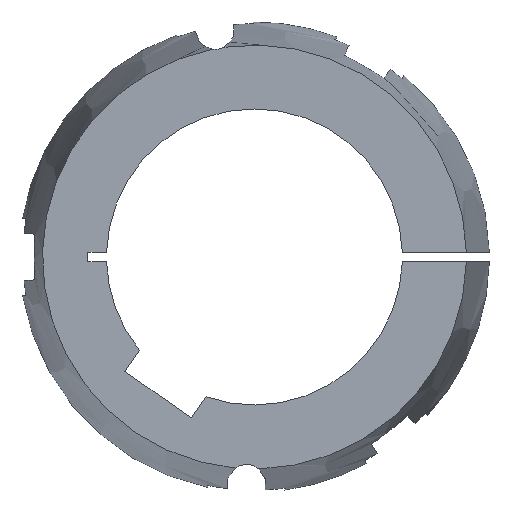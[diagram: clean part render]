
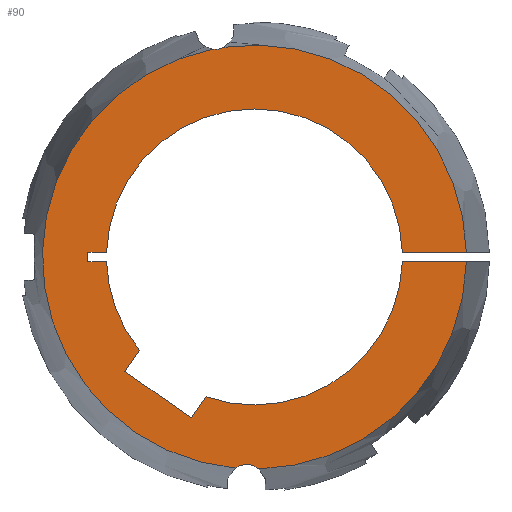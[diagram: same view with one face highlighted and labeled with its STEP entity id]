
A CAD part, left-side view. The second image highlights one B-rep face of the part: STEP entity #90.
In plain terms, the highlighted planar face has unit normal (-1, 0, 0).
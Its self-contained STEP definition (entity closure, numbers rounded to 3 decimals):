
#90 = ADVANCED_FACE( '', ( #140 ), #141, .F. );
#140 = FACE_OUTER_BOUND( '', #208, .T. );
#141 = PLANE( '', #209 );
#208 = EDGE_LOOP( '', ( #369, #370, #371, #372, #373, #374, #375, #376, #377, #378, #379, #380, #381, #382, #383, #384 ) );
#209 = AXIS2_PLACEMENT_3D( '', #385, #386, #387 );
#369 = ORIENTED_EDGE( '', *, *, #548, .F. );
#370 = ORIENTED_EDGE( '', *, *, #601, .F. );
#371 = ORIENTED_EDGE( '', *, *, #570, .T. );
#372 = ORIENTED_EDGE( '', *, *, #583, .T. );
#373 = ORIENTED_EDGE( '', *, *, #581, .T. );
#374 = ORIENTED_EDGE( '', *, *, #578, .T. );
#375 = ORIENTED_EDGE( '', *, *, #587, .T. );
#376 = ORIENTED_EDGE( '', *, *, #602, .T. );
#377 = ORIENTED_EDGE( '', *, *, #603, .T. );
#378 = ORIENTED_EDGE( '', *, *, #604, .T. );
#379 = ORIENTED_EDGE( '', *, *, #605, .T. );
#380 = ORIENTED_EDGE( '', *, *, #606, .T. );
#381 = ORIENTED_EDGE( '', *, *, #572, .T. );
#382 = ORIENTED_EDGE( '', *, *, #607, .F. );
#383 = ORIENTED_EDGE( '', *, *, #551, .F. );
#384 = ORIENTED_EDGE( '', *, *, #608, .F. );
#385 = CARTESIAN_POINT( '', ( -89., 0., 0. ) );
#386 = DIRECTION( '', ( 1., 0., 0. ) );
#387 = DIRECTION( '', ( 0., 1., 0. ) );
#548 = EDGE_CURVE( '', #649, #651, #652, .F. );
#551 = EDGE_CURVE( '', #655, #657, #658, .F. );
#570 = EDGE_CURVE( '', #693, #691, #694, .T. );
#572 = EDGE_CURVE( '', #696, #697, #698, .T. );
#578 = EDGE_CURVE( '', #709, #707, #710, .T. );
#581 = EDGE_CURVE( '', #714, #709, #715, .T. );
#583 = EDGE_CURVE( '', #691, #714, #717, .T. );
#587 = EDGE_CURVE( '', #707, #721, #723, .T. );
#601 = EDGE_CURVE( '', #693, #649, #745, .T. );
#602 = EDGE_CURVE( '', #721, #746, #747, .T. );
#603 = EDGE_CURVE( '', #746, #748, #749, .T. );
#604 = EDGE_CURVE( '', #748, #750, #751, .T. );
#605 = EDGE_CURVE( '', #750, #752, #753, .T. );
#606 = EDGE_CURVE( '', #752, #696, #754, .T. );
#607 = EDGE_CURVE( '', #657, #697, #755, .T. );
#608 = EDGE_CURVE( '', #651, #655, #756, .T. );
#649 = VERTEX_POINT( '', #815 );
#651 = VERTEX_POINT( '', #828 );
#652 = CIRCLE( '', #829, 5.25 );
#655 = VERTEX_POINT( '', #843 );
#657 = VERTEX_POINT( '', #861 );
#658 = CIRCLE( '', #862, 5.25 );
#691 = VERTEX_POINT( '', #935 );
#693 = VERTEX_POINT( '', #938 );
#694 = LINE( '', #939, #940 );
#696 = VERTEX_POINT( '', #948 );
#697 = VERTEX_POINT( '', #949 );
#698 = LINE( '', #950, #951 );
#707 = VERTEX_POINT( '', #969 );
#709 = VERTEX_POINT( '', #972 );
#710 = LINE( '', #973, #974 );
#714 = VERTEX_POINT( '', #980 );
#715 = LINE( '', #981, #982 );
#717 = CIRCLE( '', #985, 40. );
#721 = VERTEX_POINT( '', #990 );
#723 = LINE( '', #993, #994 );
#745 = CIRCLE( '', #1019, 57.277 );
#746 = VERTEX_POINT( '', #1020 );
#747 = CIRCLE( '', #1021, 40. );
#748 = VERTEX_POINT( '', #1022 );
#749 = LINE( '', #1023, #1024 );
#750 = VERTEX_POINT( '', #1025 );
#751 = LINE( '', #1026, #1027 );
#752 = VERTEX_POINT( '', #1028 );
#753 = LINE( '', #1029, #1030 );
#754 = CIRCLE( '', #1031, 40. );
#755 = CIRCLE( '', #1032, 57.277 );
#756 = CIRCLE( '', #1033, 57.277 );
#815 = CARTESIAN_POINT( '', ( -89., -1.169, -57.265 ) );
#828 = CARTESIAN_POINT( '', ( -89., 5.158, -57.044 ) );
#829 = AXIS2_PLACEMENT_3D( '', #1193, #1194, #1195 );
#843 = CARTESIAN_POINT( '', ( -89., 11.362, 56.138 ) );
#861 = CARTESIAN_POINT( '', ( -89., 8.229, 56.682 ) );
#862 = AXIS2_PLACEMENT_3D( '', #1196, #1197, #1198 );
#935 = CARTESIAN_POINT( '', ( -89., -39.98, -1.25 ) );
#938 = CARTESIAN_POINT( '', ( -89., -57.263, -1.25 ) );
#939 = CARTESIAN_POINT( '', ( -89., -63.5, -1.25 ) );
#940 = VECTOR( '', #1228, 1000. );
#948 = CARTESIAN_POINT( '', ( -89., -39.98, 1.25 ) );
#949 = CARTESIAN_POINT( '', ( -89., -57.263, 1.25 ) );
#950 = CARTESIAN_POINT( '', ( -89., 0., 1.25 ) );
#951 = VECTOR( '', #1229, 1000. );
#969 = CARTESIAN_POINT( '', ( -89., 35.051, -30.88 ) );
#972 = CARTESIAN_POINT( '', ( -89., 17.03, -43.499 ) );
#973 = CARTESIAN_POINT( '', ( -89., 17.03, -43.499 ) );
#974 = VECTOR( '', #1234, 1000. );
#980 = CARTESIAN_POINT( '', ( -89., 13.048, -37.812 ) );
#981 = CARTESIAN_POINT( '', ( -89., 13.048, -37.812 ) );
#982 = VECTOR( '', #1237, 1000. );
#985 = AXIS2_PLACEMENT_3D( '', #1239, #1240, #1241 );
#990 = CARTESIAN_POINT( '', ( -89., 31.069, -25.193 ) );
#993 = CARTESIAN_POINT( '', ( -89., 35.051, -30.88 ) );
#994 = VECTOR( '', #1247, 1000. );
#1019 = AXIS2_PLACEMENT_3D( '', #1281, #1282, #1283 );
#1020 = CARTESIAN_POINT( '', ( -89., 39.98, -1.25 ) );
#1021 = AXIS2_PLACEMENT_3D( '', #1284, #1285, #1286 );
#1022 = CARTESIAN_POINT( '', ( -89., 45., -1.25 ) );
#1023 = CARTESIAN_POINT( '', ( -89., 0., -1.25 ) );
#1024 = VECTOR( '', #1287, 1000. );
#1025 = CARTESIAN_POINT( '', ( -89., 45., 1.25 ) );
#1026 = CARTESIAN_POINT( '', ( -89., 45., -1.25 ) );
#1027 = VECTOR( '', #1288, 1000. );
#1028 = CARTESIAN_POINT( '', ( -89., 39.98, 1.25 ) );
#1029 = CARTESIAN_POINT( '', ( -89., 45., 1.25 ) );
#1030 = VECTOR( '', #1289, 1000. );
#1031 = AXIS2_PLACEMENT_3D( '', #1290, #1291, #1292 );
#1032 = AXIS2_PLACEMENT_3D( '', #1293, #1294, #1295 );
#1033 = AXIS2_PLACEMENT_3D( '', #1296, #1297, #1298 );
#1193 = CARTESIAN_POINT( '', ( -89., 2.141, -61.34 ) );
#1194 = DIRECTION( '', ( 1., 0., 0. ) );
#1195 = DIRECTION( '', ( 0., 1., 0. ) );
#1196 = CARTESIAN_POINT( '', ( -89., 10.652, 61.34 ) );
#1197 = DIRECTION( '', ( 1., 0., 0. ) );
#1198 = DIRECTION( '', ( 0., 1., 0. ) );
#1228 = DIRECTION( '', ( 0., 1., 0. ) );
#1229 = DIRECTION( '', ( 0., -1., 0. ) );
#1234 = DIRECTION( '', ( 0., 0.819, 0.574 ) );
#1237 = DIRECTION( '', ( 0., 0.574, -0.819 ) );
#1239 = CARTESIAN_POINT( '', ( -89., 0., 0. ) );
#1240 = DIRECTION( '', ( 1., 0., 0. ) );
#1241 = DIRECTION( '', ( 0., 0., -1. ) );
#1247 = DIRECTION( '', ( 0., -0.574, 0.819 ) );
#1281 = CARTESIAN_POINT( '', ( -89., 0., 0. ) );
#1282 = DIRECTION( '', ( 1., 0., 0. ) );
#1283 = DIRECTION( '', ( 0., 1., 0. ) );
#1284 = CARTESIAN_POINT( '', ( -89., 0., 0. ) );
#1285 = DIRECTION( '', ( 1., 0., 0. ) );
#1286 = DIRECTION( '', ( 0., 0., -1. ) );
#1287 = DIRECTION( '', ( 0., 1., 0. ) );
#1288 = DIRECTION( '', ( 0., 0., 1. ) );
#1289 = DIRECTION( '', ( 0., -1., 0. ) );
#1290 = CARTESIAN_POINT( '', ( -89., 0., 0. ) );
#1291 = DIRECTION( '', ( 1., 0., 0. ) );
#1292 = DIRECTION( '', ( 0., 0., -1. ) );
#1293 = CARTESIAN_POINT( '', ( -89., 0., 0. ) );
#1294 = DIRECTION( '', ( 1., 0., 0. ) );
#1295 = DIRECTION( '', ( 0., 1., 0. ) );
#1296 = CARTESIAN_POINT( '', ( -89., 0., 0. ) );
#1297 = DIRECTION( '', ( 1., 0., 0. ) );
#1298 = DIRECTION( '', ( 0., 1., 0. ) );
